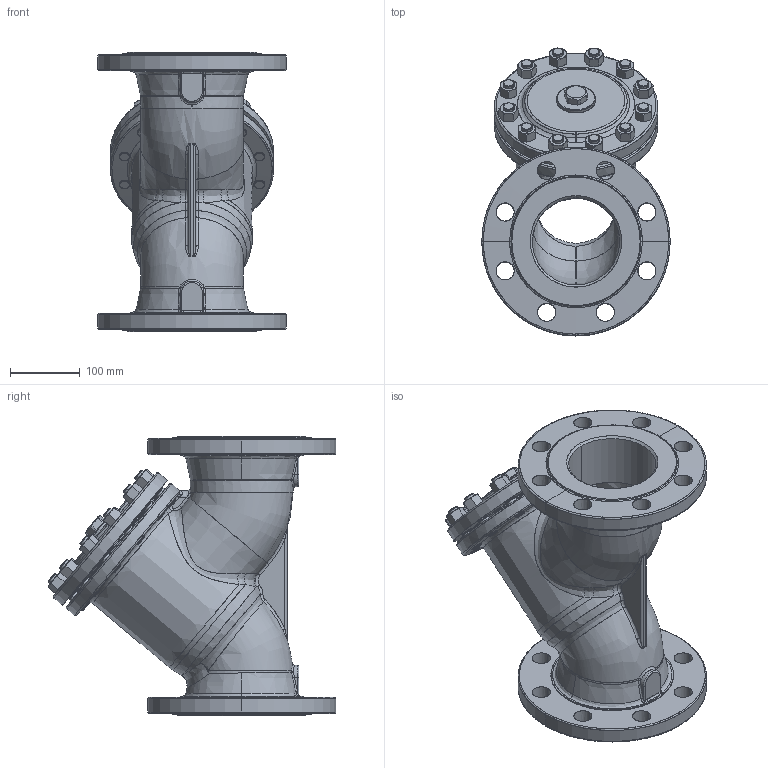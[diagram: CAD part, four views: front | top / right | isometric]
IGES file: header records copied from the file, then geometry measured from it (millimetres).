
Start section: SolidWorks IGES file using analytic representation for surfaces
Global section: file name: D:\Archiwum SolidWorks\staliwo\821\PN40\CAD\821_DN125 PN40.IGS; native system: SolidWorks 2010; preprocessor: SolidWorks 2010; author: wtarnaws; date: 100113.084744; units: millimetre
Bounding box: 270 x 412.62 x 400 mm (x, y, z)
Surface area: 885622.1 mm2 (no closed solid volume)
Topology: 0 solids, 0 shells, 1124 faces, 16736 edges, 16736 vertices
Faces by surface type: revolution 701, bspline 423
